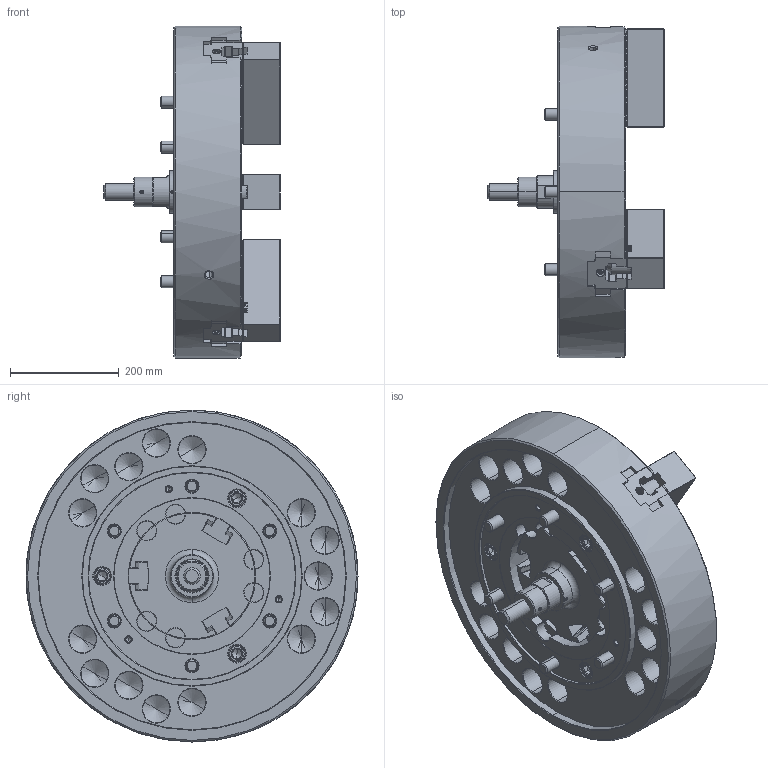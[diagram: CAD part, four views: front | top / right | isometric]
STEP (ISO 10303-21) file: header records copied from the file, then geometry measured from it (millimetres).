
FILE_DESCRIPTION (( 'STEP AP214' ), '1' );
FILE_NAME ('DT1_N-24_OUTSIDE_VIEW_HCL.STEP', '2026-03-19T01:36:17', ( '' ), ( '' ), 'SwSTEP 2.0', 'SolidWorks 2022', '' );
FILE_SCHEMA (( 'AUTOMOTIVE_DESIGN' ));
Length unit declared in the file: millimetre
Products named in the file (11): Copy of 61P321208^DT1_N-24; DT1_N-24_COVER^DT1_N-24; DT1_N-24_M20x60^DT1_N-24; DT1_N-24_DN^DT1_N-24; DT1_N-24_DRAWSCREW^DT1_N-24; DT1_N-24_M22x120^DT1_N-24; DT1_N-24_TNUT^DT1_N-24; DT1_N-24_BASE^DT1_N-24; DT1_N-24_M6x12^DT1_N-24; DT1_N-24_SOFTJAW^DT1_N-24; DT1_N-24_OUTSIDE_VIEW_HCL
Assembly tree (29 placements, depth 2):
  DT1_N-24_OUTSIDE_VIEW_HCL
    DT1_N-24_SOFTJAW^DT1_N-24  x3
    DT1_N-24_TNUT^DT1_N-24  x6
    DT1_N-24_COVER^DT1_N-24
    DT1_N-24_DRAWSCREW^DT1_N-24
    Copy of 61P321208^DT1_N-24
    DT1_N-24_DN^DT1_N-24
    DT1_N-24_BASE^DT1_N-24
    DT1_N-24_M6x12^DT1_N-24  x3
    DT1_N-24_M22x120^DT1_N-24  x6
    DT1_N-24_M20x60^DT1_N-24  x6
Bounding box: 324.5 x 610 x 610 mm (x, y, z)
Volume: 33338442.2 mm3; surface area: 1894884.3 mm2
Topology: 29 solids, 35 shells, 8012 faces, 22789 edges, 14974 vertices
Faces by surface type: plane 5055, cylinder 1531, bspline 836, cone 510, torus 74, sphere 6
Entity records: 223941 total; most frequent: CARTESIAN_POINT 71003, ORIENTED_EDGE 34718, DIRECTION 27035, EDGE_CURVE 17359, LINE 13013, VECTOR 13013, VERTEX_POINT 11448, AXIS2_PLACEMENT_3D 7011
